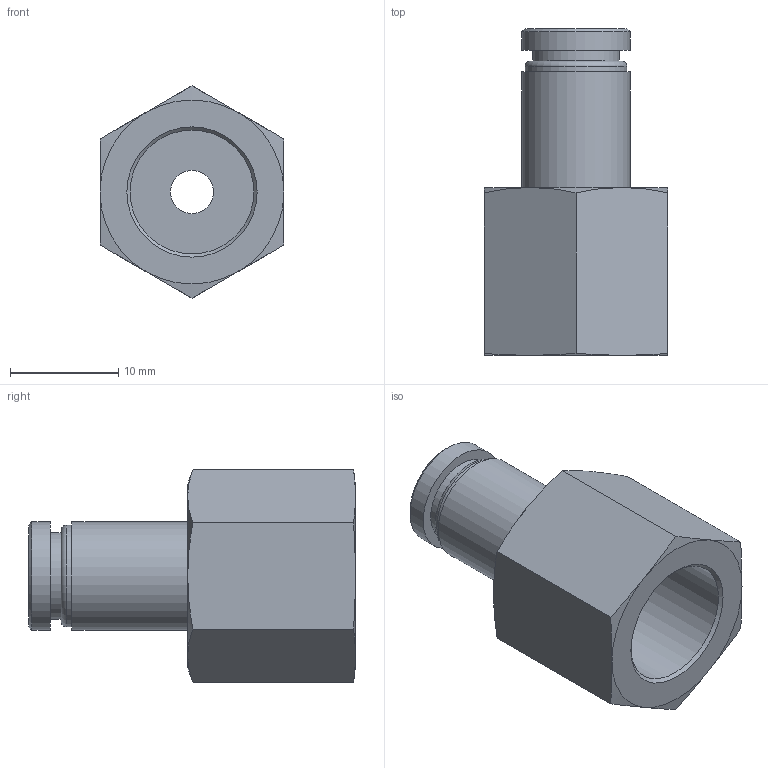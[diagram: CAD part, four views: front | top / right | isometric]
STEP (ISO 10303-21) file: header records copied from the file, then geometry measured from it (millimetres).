
FILE_DESCRIPTION(/* description */ (''),/* implementation_level */ '2;1');
FILE_NAME(/* name */ 'LXH14 0006 B2.stp',/* time_stamp */ '2026-04-27T19:20:38+02:00',/* author */ ('freju'),/* organization */ (''),/* preprocessor_version */ 'ST-DEVELOPER v20.1',/* originating_system */ 'Autodesk Inventor 2026',/* authorisation */ '');
FILE_SCHEMA (('AUTOMOTIVE_DESIGN { 1 0 10303 214 3 1 1 }'));
Length unit declared in the file: millimetre
Products named in the file (1): LXH14 0006 B2
Bounding box: 17 x 30.2 x 19.63 mm (x, y, z)
Volume: 3302.2 mm3; surface area: 2623.9 mm2
Topology: 1 solids, 1 shells, 36 faces, 72 edges, 44 vertices
Faces by surface type: plane 14, cone 14, cylinder 7, torus 1
Full cylindrical faces by diameter (mm): 4 x1, 6 x1, 8 x1, 9.4 x1, 10 x2, 11.445 x1
Entity records: 956 total; most frequent: CARTESIAN_POINT 201, DIRECTION 155, ORIENTED_EDGE 144, EDGE_CURVE 72, AXIS2_PLACEMENT_3D 70, EDGE_LOOP 44, VERTEX_POINT 44, FACE_OUTER_BOUND 36
